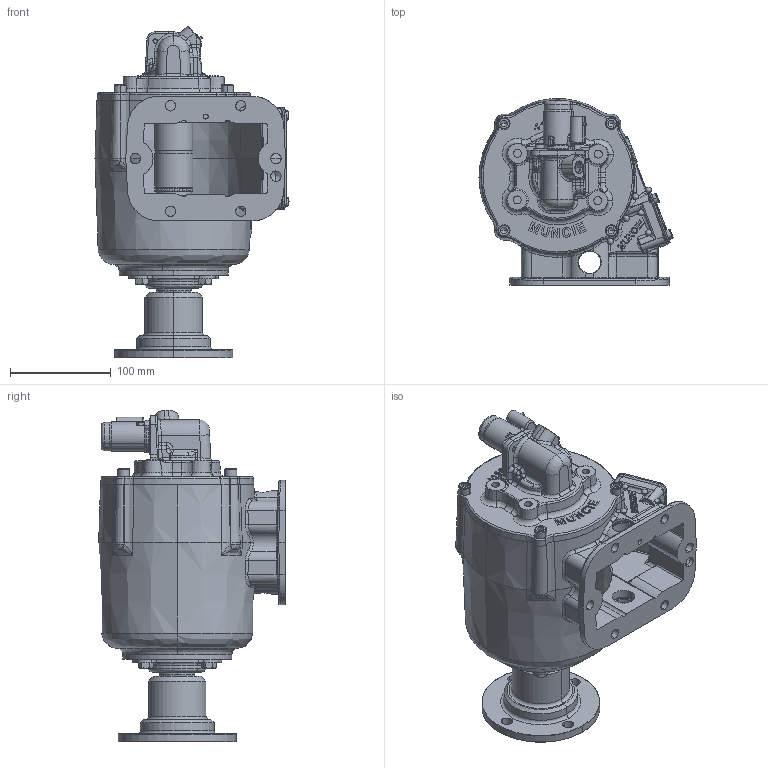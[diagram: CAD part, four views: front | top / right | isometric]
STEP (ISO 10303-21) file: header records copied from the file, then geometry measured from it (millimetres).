
FILE_DESCRIPTION (( 'STEP AP203' ), '1' );
FILE_NAME ('CS6B-XXXXX-S1CX.STEP', '2023-06-02T18:35:36', ( '' ), ( '' ), 'SwSTEP 2.0', 'SolidWorks 2021', '' );
FILE_SCHEMA (( 'CONFIG_CONTROL_DESIGN' ));
Length unit declared in the file: inch
Products named in the file (18): 14T37357; CS6B-XXXXX-S1CX; 11T36124-1; 19T41118; 19T40859; 21T20092; 35T40860-1; 01T36713; 19T38266; 06T37372_06T37372; 19T35237; 15T41597; 19T33233; 12T34003; 36MCL100-1; 16T41119; 15T34576; 24T36894
Assembly tree (27 placements, depth 2):
  CS6B-XXXXX-S1CX
    01T36713
    11T36124-1
    12T34003
    15T41597
    16T41119
    19T35237  x4
    19T40859  x2
    24T36894
    35T40860-1
    36MCL100-1
    19T41118  x4
    15T34576
    19T33233  x4
    06T37372_06T37372
    21T20092
    19T38266
    14T37357
Bounding box: 192.82 x 185.25 x 329.74 mm (x, y, z)
Volume: 1557792.7 mm3; surface area: 461649.9 mm2
Topology: 24 solids, 32 shells, 4564 faces, 12152 edges, 7764 vertices
Faces by surface type: plane 1813, bspline 1497, cylinder 787, cone 361, torus 102, sphere 4
Entity records: 284456 total; most frequent: CARTESIAN_POINT 185982, ORIENTED_EDGE 23030, DIRECTION 15059, EDGE_CURVE 11516, VERTEX_POINT 7447, LINE 5311, VECTOR 5311, AXIS2_PLACEMENT_3D 4874
